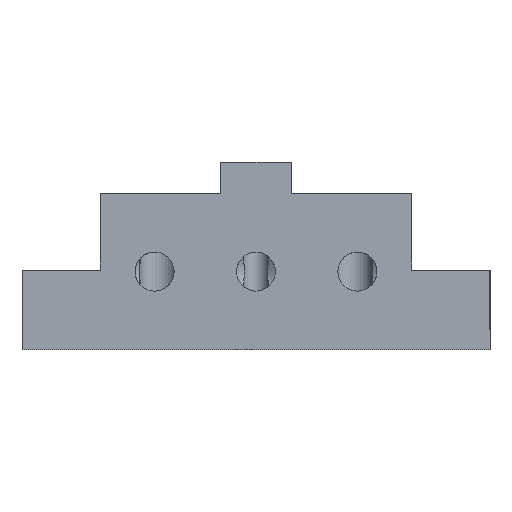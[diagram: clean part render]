
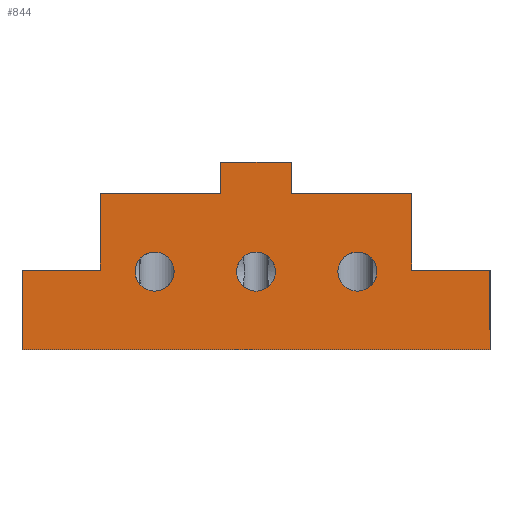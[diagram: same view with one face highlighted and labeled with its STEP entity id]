
A CAD part, front view. The second image highlights one B-rep face of the part: STEP entity #844.
In plain terms, the highlighted planar face has unit normal (0, -1, 0).
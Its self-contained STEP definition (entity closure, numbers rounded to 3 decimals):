
#8 = CARTESIAN_POINT ( 'NONE',  ( -10., -110., 5. ) ) ;
#20 = CARTESIAN_POINT ( 'NONE',  ( -10., -110., 0.1 ) ) ;
#50 = CIRCLE ( 'NONE', #2133, 1.25 ) ;
#62 = EDGE_CURVE ( 'NONE', #366, #793, #671, .T. ) ;
#69 = ORIENTED_EDGE ( 'NONE', *, *, #849, .F. ) ;
#74 = CARTESIAN_POINT ( 'NONE',  ( -15., -110., -5. ) ) ;
#80 = LINE ( 'NONE', #2614, #736 ) ;
#87 = DIRECTION ( 'NONE',  ( 0., 0., 1. ) ) ;
#111 = CARTESIAN_POINT ( 'NONE',  ( -15., -110., 5. ) ) ;
#134 = CARTESIAN_POINT ( 'NONE',  ( -6.5, -110., 0. ) ) ;
#166 = DIRECTION ( 'NONE',  ( 0., 0., -1. ) ) ;
#177 = FACE_OUTER_BOUND ( 'NONE', #2371, .T. ) ;
#184 = CARTESIAN_POINT ( 'NONE',  ( 0., -110., 0. ) ) ;
#220 = CARTESIAN_POINT ( 'NONE',  ( 6.5, -110., 1.25 ) ) ;
#245 = DIRECTION ( 'NONE',  ( 0., 0., -1. ) ) ;
#289 = ORIENTED_EDGE ( 'NONE', *, *, #378, .F. ) ;
#295 = DIRECTION ( 'NONE',  ( 1., 0., 0. ) ) ;
#322 = VECTOR ( 'NONE', #2016, 1000. ) ;
#331 = EDGE_LOOP ( 'NONE', ( #69, #818 ) ) ;
#362 = CARTESIAN_POINT ( 'NONE',  ( 6.5, -110., 0. ) ) ;
#366 = VERTEX_POINT ( 'NONE', #1515 ) ;
#378 = EDGE_CURVE ( 'NONE', #764, #366, #80, .T. ) ;
#382 = DIRECTION ( 'NONE',  ( 0., 0., -1. ) ) ;
#396 = DIRECTION ( 'NONE',  ( 0., -1., 0. ) ) ;
#446 = ORIENTED_EDGE ( 'NONE', *, *, #1664, .F. ) ;
#456 = EDGE_CURVE ( 'NONE', #1965, #1521, #731, .T. ) ;
#462 = DIRECTION ( 'NONE',  ( 0., 0., -1. ) ) ;
#467 = VERTEX_POINT ( 'NONE', #2409 ) ;
#491 = CIRCLE ( 'NONE', #1996, 1.25 ) ;
#492 = DIRECTION ( 'NONE',  ( 0., 0., -1. ) ) ;
#523 = VERTEX_POINT ( 'NONE', #2247 ) ;
#552 = EDGE_CURVE ( 'NONE', #2648, #764, #2043, .T. ) ;
#565 = CARTESIAN_POINT ( 'NONE',  ( 2.26, -110., 5. ) ) ;
#598 = DIRECTION ( 'NONE',  ( 0., -1., 0. ) ) ;
#599 = VERTEX_POINT ( 'NONE', #565 ) ;
#621 = VECTOR ( 'NONE', #2413, 1000. ) ;
#639 = EDGE_CURVE ( 'NONE', #1345, #2473, #1775, .T. ) ;
#671 = LINE ( 'NONE', #74, #2040 ) ;
#688 = EDGE_LOOP ( 'NONE', ( #1360, #1130 ) ) ;
#726 = DIRECTION ( 'NONE',  ( 0., 0., -1. ) ) ;
#731 = LINE ( 'NONE', #111, #1256 ) ;
#736 = VECTOR ( 'NONE', #2583, 1000. ) ;
#743 = CARTESIAN_POINT ( 'NONE',  ( -2.26, -110., 7. ) ) ;
#764 = VERTEX_POINT ( 'NONE', #1714 ) ;
#766 = CARTESIAN_POINT ( 'NONE',  ( -15., -110., 0.1 ) ) ;
#779 = DIRECTION ( 'NONE',  ( 0., 0., -1. ) ) ;
#793 = VERTEX_POINT ( 'NONE', #766 ) ;
#806 = CARTESIAN_POINT ( 'NONE',  ( -6.5, -110., 0. ) ) ;
#818 = ORIENTED_EDGE ( 'NONE', *, *, #639, .F. ) ;
#829 = CARTESIAN_POINT ( 'NONE',  ( -6.5, -110., -1.25 ) ) ;
#844 = ADVANCED_FACE ( 'NONE', ( #1361, #2039, #177, #2436 ), #1788, .F. ) ;
#849 = EDGE_CURVE ( 'NONE', #2473, #1345, #491, .T. ) ;
#861 = CARTESIAN_POINT ( 'NONE',  ( 6.5, -110., 0. ) ) ;
#921 = DIRECTION ( 'NONE',  ( 0., -1., 0. ) ) ;
#938 = VERTEX_POINT ( 'NONE', #829 ) ;
#942 = DIRECTION ( 'NONE',  ( 1., 0., 0. ) ) ;
#964 = VERTEX_POINT ( 'NONE', #2590 ) ;
#971 = CARTESIAN_POINT ( 'NONE',  ( 0., -110., -1.25 ) ) ;
#984 = LINE ( 'NONE', #1193, #1525 ) ;
#994 = CARTESIAN_POINT ( 'NONE',  ( -15., -110., 0.1 ) ) ;
#1002 = CARTESIAN_POINT ( 'NONE',  ( -6.5, -110., 1.25 ) ) ;
#1023 = EDGE_CURVE ( 'NONE', #2231, #467, #1470, .T. ) ;
#1032 = ORIENTED_EDGE ( 'NONE', *, *, #62, .F. ) ;
#1042 = LINE ( 'NONE', #1661, #2177 ) ;
#1057 = VERTEX_POINT ( 'NONE', #743 ) ;
#1076 = AXIS2_PLACEMENT_3D ( 'NONE', #2201, #1157, #2215 ) ;
#1112 = EDGE_CURVE ( 'NONE', #1057, #2243, #2149, .T. ) ;
#1126 = VECTOR ( 'NONE', #1217, 1000. ) ;
#1130 = ORIENTED_EDGE ( 'NONE', *, *, #2202, .F. ) ;
#1157 = DIRECTION ( 'NONE',  ( 0., 1., 0. ) ) ;
#1175 = DIRECTION ( 'NONE',  ( 0., -1., 0. ) ) ;
#1181 = CARTESIAN_POINT ( 'NONE',  ( 10., -110., 0.1 ) ) ;
#1193 = CARTESIAN_POINT ( 'NONE',  ( -15., -110., 5. ) ) ;
#1195 = ORIENTED_EDGE ( 'NONE', *, *, #552, .F. ) ;
#1201 = EDGE_CURVE ( 'NONE', #1057, #1521, #1706, .T. ) ;
#1206 = CARTESIAN_POINT ( 'NONE',  ( 2.26, -110., 7. ) ) ;
#1217 = DIRECTION ( 'NONE',  ( 0., 0., 1. ) ) ;
#1256 = VECTOR ( 'NONE', #942, 1000. ) ;
#1290 = CARTESIAN_POINT ( 'NONE',  ( 0., -110., 0. ) ) ;
#1339 = CARTESIAN_POINT ( 'NONE',  ( 15., -110., 0.1 ) ) ;
#1345 = VERTEX_POINT ( 'NONE', #220 ) ;
#1354 = CARTESIAN_POINT ( 'NONE',  ( -2.26, -110., 7. ) ) ;
#1360 = ORIENTED_EDGE ( 'NONE', *, *, #1023, .F. ) ;
#1361 = FACE_BOUND ( 'NONE', #2156, .T. ) ;
#1392 = VERTEX_POINT ( 'NONE', #20 ) ;
#1398 = ORIENTED_EDGE ( 'NONE', *, *, #1112, .F. ) ;
#1417 = DIRECTION ( 'NONE',  ( 0., 0., -1. ) ) ;
#1470 = CIRCLE ( 'NONE', #2545, 1.25 ) ;
#1504 = LINE ( 'NONE', #2604, #621 ) ;
#1515 = CARTESIAN_POINT ( 'NONE',  ( -15., -110., -5. ) ) ;
#1516 = EDGE_CURVE ( 'NONE', #1609, #938, #50, .T. ) ;
#1521 = VERTEX_POINT ( 'NONE', #2191 ) ;
#1525 = VECTOR ( 'NONE', #1791, 1000. ) ;
#1595 = DIRECTION ( 'NONE',  ( 0., -1., 0. ) ) ;
#1609 = VERTEX_POINT ( 'NONE', #1002 ) ;
#1647 = VECTOR ( 'NONE', #492, 1000. ) ;
#1656 = AXIS2_PLACEMENT_3D ( 'NONE', #184, #396, #2194 ) ;
#1661 = CARTESIAN_POINT ( 'NONE',  ( 2.26, -110., 7. ) ) ;
#1664 = EDGE_CURVE ( 'NONE', #2243, #599, #1042, .T. ) ;
#1671 = CARTESIAN_POINT ( 'NONE',  ( -10., -110., 0.1 ) ) ;
#1677 = EDGE_CURVE ( 'NONE', #1392, #1965, #2091, .T. ) ;
#1706 = LINE ( 'NONE', #2570, #1647 ) ;
#1714 = CARTESIAN_POINT ( 'NONE',  ( 15., -110., -5. ) ) ;
#1721 = EDGE_CURVE ( 'NONE', #938, #1609, #1953, .T. ) ;
#1752 = ORIENTED_EDGE ( 'NONE', *, *, #2051, .F. ) ;
#1769 = ORIENTED_EDGE ( 'NONE', *, *, #2190, .T. ) ;
#1775 = CIRCLE ( 'NONE', #2630, 1.25 ) ;
#1788 = PLANE ( 'NONE',  #1076 ) ;
#1791 = DIRECTION ( 'NONE',  ( 1., 0., 0. ) ) ;
#1798 = ORIENTED_EDGE ( 'NONE', *, *, #456, .F. ) ;
#1804 = LINE ( 'NONE', #994, #2183 ) ;
#1817 = LINE ( 'NONE', #1181, #322 ) ;
#1835 = ORIENTED_EDGE ( 'NONE', *, *, #1677, .F. ) ;
#1920 = ORIENTED_EDGE ( 'NONE', *, *, #1201, .T. ) ;
#1936 = ORIENTED_EDGE ( 'NONE', *, *, #1516, .F. ) ;
#1953 = CIRCLE ( 'NONE', #2316, 1.25 ) ;
#1965 = VERTEX_POINT ( 'NONE', #8 ) ;
#1996 = AXIS2_PLACEMENT_3D ( 'NONE', #362, #1175, #779 ) ;
#2014 = ORIENTED_EDGE ( 'NONE', *, *, #1721, .F. ) ;
#2016 = DIRECTION ( 'NONE',  ( 0., 0., 1. ) ) ;
#2030 = CARTESIAN_POINT ( 'NONE',  ( 15., -110., -5. ) ) ;
#2039 = FACE_BOUND ( 'NONE', #331, .T. ) ;
#2040 = VECTOR ( 'NONE', #87, 1000. ) ;
#2042 = ORIENTED_EDGE ( 'NONE', *, *, #2241, .F. ) ;
#2043 = LINE ( 'NONE', #2030, #2044 ) ;
#2044 = VECTOR ( 'NONE', #166, 1000. ) ;
#2051 = EDGE_CURVE ( 'NONE', #523, #2648, #1504, .T. ) ;
#2091 = LINE ( 'NONE', #1671, #1126 ) ;
#2133 = AXIS2_PLACEMENT_3D ( 'NONE', #134, #1595, #382 ) ;
#2137 = EDGE_CURVE ( 'NONE', #793, #1392, #1804, .T. ) ;
#2149 = LINE ( 'NONE', #1354, #2311 ) ;
#2156 = EDGE_LOOP ( 'NONE', ( #2014, #1936 ) ) ;
#2177 = VECTOR ( 'NONE', #462, 1000. ) ;
#2183 = VECTOR ( 'NONE', #2237, 1000. ) ;
#2190 = EDGE_CURVE ( 'NONE', #523, #964, #1817, .T. ) ;
#2191 = CARTESIAN_POINT ( 'NONE',  ( -2.26, -110., 5. ) ) ;
#2194 = DIRECTION ( 'NONE',  ( 0., 0., -1. ) ) ;
#2201 = CARTESIAN_POINT ( 'NONE',  ( 0., -110., 0. ) ) ;
#2202 = EDGE_CURVE ( 'NONE', #467, #2231, #2465, .T. ) ;
#2215 = DIRECTION ( 'NONE',  ( 0., 0., 1. ) ) ;
#2231 = VERTEX_POINT ( 'NONE', #971 ) ;
#2237 = DIRECTION ( 'NONE',  ( 1., 0., 0. ) ) ;
#2241 = EDGE_CURVE ( 'NONE', #599, #964, #984, .T. ) ;
#2243 = VERTEX_POINT ( 'NONE', #1206 ) ;
#2247 = CARTESIAN_POINT ( 'NONE',  ( 10., -110., 0.1 ) ) ;
#2273 = CARTESIAN_POINT ( 'NONE',  ( 6.5, -110., -1.25 ) ) ;
#2291 = DIRECTION ( 'NONE',  ( 0., -1., 0. ) ) ;
#2311 = VECTOR ( 'NONE', #295, 1000. ) ;
#2316 = AXIS2_PLACEMENT_3D ( 'NONE', #806, #598, #1417 ) ;
#2371 = EDGE_LOOP ( 'NONE', ( #1798, #1835, #2652, #1032, #289, #1195, #1752, #1769, #2042, #446, #1398, #1920 ) ) ;
#2409 = CARTESIAN_POINT ( 'NONE',  ( 0., -110., 1.25 ) ) ;
#2413 = DIRECTION ( 'NONE',  ( 1., 0., 0. ) ) ;
#2436 = FACE_BOUND ( 'NONE', #688, .T. ) ;
#2465 = CIRCLE ( 'NONE', #1656, 1.25 ) ;
#2473 = VERTEX_POINT ( 'NONE', #2273 ) ;
#2545 = AXIS2_PLACEMENT_3D ( 'NONE', #1290, #921, #726 ) ;
#2570 = CARTESIAN_POINT ( 'NONE',  ( -2.26, -110., 7. ) ) ;
#2583 = DIRECTION ( 'NONE',  ( -1., 0., 0. ) ) ;
#2590 = CARTESIAN_POINT ( 'NONE',  ( 10., -110., 5. ) ) ;
#2604 = CARTESIAN_POINT ( 'NONE',  ( 15., -110., 0.1 ) ) ;
#2614 = CARTESIAN_POINT ( 'NONE',  ( -15., -110., -5. ) ) ;
#2630 = AXIS2_PLACEMENT_3D ( 'NONE', #861, #2291, #245 ) ;
#2648 = VERTEX_POINT ( 'NONE', #1339 ) ;
#2652 = ORIENTED_EDGE ( 'NONE', *, *, #2137, .F. ) ;
